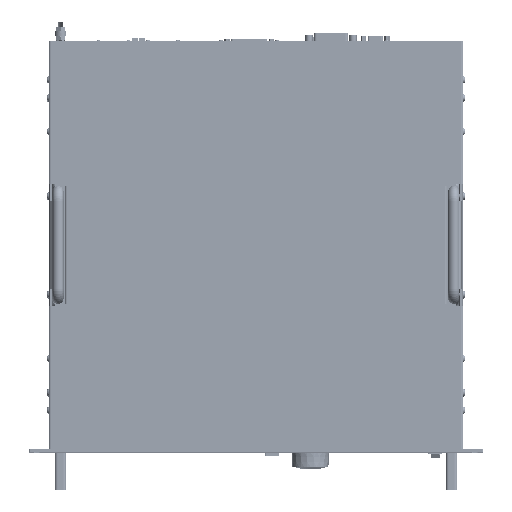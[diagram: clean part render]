
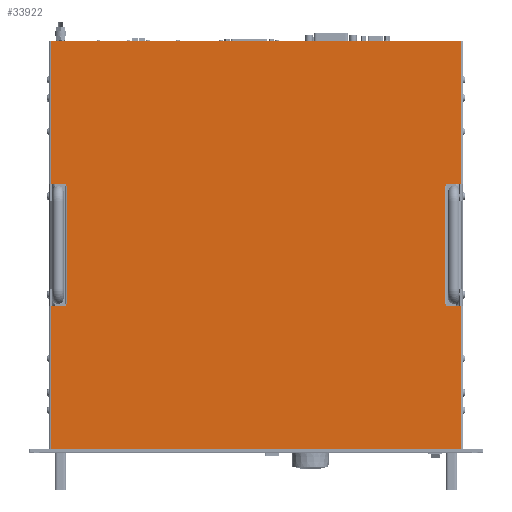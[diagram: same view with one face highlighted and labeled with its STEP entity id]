
A CAD part, top view. The second image highlights one B-rep face of the part: STEP entity #33922.
In plain terms, the highlighted planar face has unit normal (0, 0, 1).
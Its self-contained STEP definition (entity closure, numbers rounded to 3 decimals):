
#33922=ADVANCED_FACE('',(#73015),#73016,.F.);
#73015=FACE_OUTER_BOUND('',#146267,.T.);
#73016=PLANE('',#146268);
#146267=EDGE_LOOP('',(#244652,#244653,#244654,#244655,#244656,#244657,#244658,#244659,#244660,#244661,#244662,#244663,#244664,#244665,#244666,#244667,#244668,#244669,#244670,#244671));
#146268=AXIS2_PLACEMENT_3D('',#244672,#244673,#244674);
#244652=ORIENTED_EDGE('',*,*,#315704,.T.);
#244653=ORIENTED_EDGE('',*,*,#315724,.F.);
#244654=ORIENTED_EDGE('',*,*,#315725,.F.);
#244655=ORIENTED_EDGE('',*,*,#315368,.F.);
#244656=ORIENTED_EDGE('',*,*,#315690,.F.);
#244657=ORIENTED_EDGE('',*,*,#315353,.F.);
#244658=ORIENTED_EDGE('',*,*,#315679,.F.);
#244659=ORIENTED_EDGE('',*,*,#315726,.F.);
#244660=ORIENTED_EDGE('',*,*,#315722,.T.);
#244661=ORIENTED_EDGE('',*,*,#315717,.F.);
#244662=ORIENTED_EDGE('',*,*,#315714,.T.);
#244663=ORIENTED_EDGE('',*,*,#315727,.F.);
#244664=ORIENTED_EDGE('',*,*,#315655,.F.);
#244665=ORIENTED_EDGE('',*,*,#315343,.F.);
#244666=ORIENTED_EDGE('',*,*,#315644,.F.);
#244667=ORIENTED_EDGE('',*,*,#315363,.F.);
#244668=ORIENTED_EDGE('',*,*,#315728,.F.);
#244669=ORIENTED_EDGE('',*,*,#315729,.F.);
#244670=ORIENTED_EDGE('',*,*,#315701,.T.);
#244671=ORIENTED_EDGE('',*,*,#315709,.T.);
#244672=CARTESIAN_POINT('',(241.295,259.125,235.249));
#244673=DIRECTION('',(0.,0.,-1.0));
#244674=DIRECTION('',(1.0,0.,0.));
#315343=EDGE_CURVE('',#373774,#373776,#373777,.T.);
#315353=EDGE_CURVE('',#373792,#373794,#373795,.T.);
#315363=EDGE_CURVE('',#373810,#373812,#373813,.T.);
#315368=EDGE_CURVE('',#373819,#373821,#373822,.T.);
#315644=EDGE_CURVE('',#373812,#373774,#374252,.T.);
#315655=EDGE_CURVE('',#373776,#374267,#374268,.T.);
#315679=EDGE_CURVE('',#374300,#373792,#374302,.T.);
#315690=EDGE_CURVE('',#373794,#373819,#374317,.T.);
#315701=EDGE_CURVE('',#374328,#374331,#374333,.T.);
#315704=EDGE_CURVE('',#374338,#374335,#374339,.T.);
#315709=EDGE_CURVE('',#374331,#374338,#374344,.T.);
#315714=EDGE_CURVE('',#374350,#374348,#374351,.T.);
#315717=EDGE_CURVE('',#374350,#374354,#374355,.T.);
#315722=EDGE_CURVE('',#374360,#374354,#374362,.T.);
#315724=EDGE_CURVE('',#374364,#374335,#374365,.T.);
#315725=EDGE_CURVE('',#373821,#374364,#374366,.T.);
#315726=EDGE_CURVE('',#374360,#374300,#374367,.T.);
#315727=EDGE_CURVE('',#374267,#374348,#374368,.T.);
#315728=EDGE_CURVE('',#374369,#373810,#374370,.T.);
#315729=EDGE_CURVE('',#374328,#374369,#374371,.T.);
#373774=VERTEX_POINT('',#460281);
#373776=VERTEX_POINT('',#460283);
#373777=LINE('',#460284,#460285);
#373792=VERTEX_POINT('',#460303);
#373794=VERTEX_POINT('',#460305);
#373795=LINE('',#460306,#460307);
#373810=VERTEX_POINT('',#460325);
#373812=VERTEX_POINT('',#460327);
#373813=LINE('',#460328,#460329);
#373819=VERTEX_POINT('',#460336);
#373821=VERTEX_POINT('',#460338);
#373822=LINE('',#460339,#460340);
#374252=LINE('',#460891,#460892);
#374267=VERTEX_POINT('',#460912);
#374268=LINE('',#460913,#460914);
#374300=VERTEX_POINT('',#460960);
#374302=LINE('',#460963,#460964);
#374317=LINE('',#460984,#460985);
#374328=VERTEX_POINT('',#461000);
#374331=VERTEX_POINT('',#461004);
#374333=LINE('',#461006,#461007);
#374335=VERTEX_POINT('',#461009);
#374338=VERTEX_POINT('',#461013);
#374339=LINE('',#461014,#461015);
#374344=LINE('',#461020,#461021);
#374348=VERTEX_POINT('',#461026);
#374350=VERTEX_POINT('',#461029);
#374351=LINE('',#461030,#461031);
#374354=VERTEX_POINT('',#461034);
#374355=LINE('',#461035,#461036);
#374360=VERTEX_POINT('',#461041);
#374362=LINE('',#461044,#461045);
#374364=VERTEX_POINT('',#461047);
#374365=LINE('',#461048,#461049);
#374366=LINE('',#461050,#461051);
#374367=LINE('',#461052,#461053);
#374368=LINE('',#461054,#461055);
#374369=VERTEX_POINT('',#461056);
#374370=LINE('',#461057,#461058);
#374371=LINE('',#461059,#461060);
#460281=CARTESIAN_POINT('',(23.618,42.5,235.249));
#460283=CARTESIAN_POINT('',(23.618,194.5,235.249));
#460284=CARTESIAN_POINT('',(23.618,188.813,235.249));
#460285=VECTOR('',#520298,1.0);
#460303=CARTESIAN_POINT('',(23.618,323.75,235.249));
#460305=CARTESIAN_POINT('',(23.618,475.75,235.249));
#460306=CARTESIAN_POINT('',(23.618,329.438,235.249));
#460307=VECTOR('',#520314,1.0);
#460325=CARTESIAN_POINT('',(458.972,194.5,235.249));
#460327=CARTESIAN_POINT('',(458.972,42.5,235.249));
#460328=CARTESIAN_POINT('',(458.972,188.813,235.249));
#460329=VECTOR('',#520330,1.0);
#460336=CARTESIAN_POINT('',(458.972,475.75,235.249));
#460338=CARTESIAN_POINT('',(458.972,323.75,235.249));
#460339=CARTESIAN_POINT('',(458.972,329.438,235.249));
#460340=VECTOR('',#520338,1.0);
#460891=CARTESIAN_POINT('',(461.722,42.5,235.249));
#460892=VECTOR('',#520724,1.0);
#460912=CARTESIAN_POINT('',(38.868,194.5,235.249));
#460913=CARTESIAN_POINT('',(20.868,194.5,235.249));
#460914=VECTOR('',#520742,1.0);
#460960=CARTESIAN_POINT('',(38.868,323.75,235.249));
#460963=CARTESIAN_POINT('',(38.868,323.75,235.249));
#460964=VECTOR('',#520770,1.0);
#460984=CARTESIAN_POINT('',(20.868,475.75,235.249));
#460985=VECTOR('',#520788,1.0);
#461000=CARTESIAN_POINT('',(443.722,196.5,235.249));
#461004=CARTESIAN_POINT('',(441.972,196.5,235.249));
#461006=CARTESIAN_POINT('',(342.588,196.5,235.249));
#461007=VECTOR('',#520800,1.0);
#461009=CARTESIAN_POINT('',(443.722,321.75,235.249));
#461013=CARTESIAN_POINT('',(441.972,321.75,235.249));
#461014=CARTESIAN_POINT('',(342.588,321.75,235.249));
#461015=VECTOR('',#520802,1.0);
#461020=CARTESIAN_POINT('',(441.972,259.125,235.249));
#461021=VECTOR('',#520812,1.0);
#461026=CARTESIAN_POINT('',(38.868,196.5,235.249));
#461029=CARTESIAN_POINT('',(40.618,196.5,235.249));
#461030=CARTESIAN_POINT('',(140.002,196.5,235.249));
#461031=VECTOR('',#520815,1.0);
#461034=CARTESIAN_POINT('',(40.618,321.75,235.249));
#461035=CARTESIAN_POINT('',(40.618,259.125,235.249));
#461036=VECTOR('',#520819,1.0);
#461041=CARTESIAN_POINT('',(38.868,321.75,235.249));
#461044=CARTESIAN_POINT('',(140.002,321.75,235.249));
#461045=VECTOR('',#520827,1.0);
#461047=CARTESIAN_POINT('',(443.722,323.75,235.249));
#461048=CARTESIAN_POINT('',(443.722,323.75,235.249));
#461049=VECTOR('',#520828,1.0);
#461050=CARTESIAN_POINT('',(461.722,323.75,235.249));
#461051=VECTOR('',#520829,1.0);
#461052=CARTESIAN_POINT('',(38.868,321.75,235.249));
#461053=VECTOR('',#520830,1.0);
#461054=CARTESIAN_POINT('',(38.868,194.5,235.249));
#461055=VECTOR('',#520831,1.0);
#461056=CARTESIAN_POINT('',(443.722,194.5,235.249));
#461057=CARTESIAN_POINT('',(443.722,194.5,235.249));
#461058=VECTOR('',#520832,1.0);
#461059=CARTESIAN_POINT('',(443.722,196.5,235.249));
#461060=VECTOR('',#520833,1.0);
#520298=DIRECTION('',(0.0,1.0,0.0));
#520314=DIRECTION('',(0.0,1.0,0.0));
#520330=DIRECTION('',(0.0,-1.0,0.0));
#520338=DIRECTION('',(0.0,-1.0,0.0));
#520724=DIRECTION('',(-1.0,0.0,0.0));
#520742=DIRECTION('',(1.0,0.0,0.0));
#520770=DIRECTION('',(-1.0,0.0,0.0));
#520788=DIRECTION('',(1.0,0.0,0.0));
#520800=DIRECTION('',(-1.0,0.0,0.0));
#520802=DIRECTION('',(1.0,0.0,0.0));
#520812=DIRECTION('',(0.0,1.0,0.0));
#520815=DIRECTION('',(-1.0,0.0,0.0));
#520819=DIRECTION('',(0.0,1.0,0.0));
#520827=DIRECTION('',(1.0,0.0,0.0));
#520828=DIRECTION('',(0.0,-1.0,0.0));
#520829=DIRECTION('',(-1.0,0.0,0.0));
#520830=DIRECTION('',(0.0,1.0,0.0));
#520831=DIRECTION('',(0.0,1.0,0.0));
#520832=DIRECTION('',(1.0,0.0,0.0));
#520833=DIRECTION('',(0.0,-1.0,0.0));
